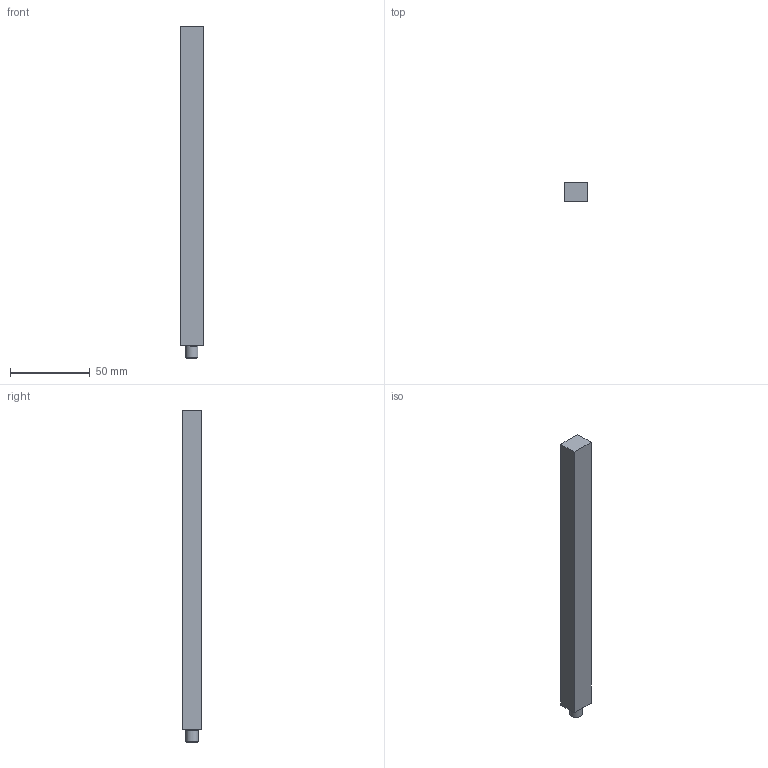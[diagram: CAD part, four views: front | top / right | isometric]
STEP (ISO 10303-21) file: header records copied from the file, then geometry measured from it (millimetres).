
FILE_DESCRIPTION (( 'STEP AP214' ), '1' );
FILE_NAME ('KKPHF Pin S_-_8-200.step', '2024-02-07T08:54:06', ( '' ), ( '' ), 'SwSTEP 2.0', 'SolidWorks 2020', '' );
FILE_SCHEMA (( 'AUTOMOTIVE_DESIGN' ));
Length unit declared in the file: millimetre
Products named in the file (1): KKPHF  Pin S_-_8-200
Bounding box: 15 x 12 x 207.9 mm (x, y, z)
Volume: 36295.4 mm3; surface area: 11451.5 mm2
Topology: 1 solids, 1 shells, 15 faces, 31 edges, 19 vertices
Faces by surface type: plane 9, cylinder 3, cone 2, torus 1
Full cylindrical faces by diameter (mm): 3.3 x1
Entity records: 425 total; most frequent: CARTESIAN_POINT 78, DIRECTION 62, ORIENTED_EDGE 56, EDGE_CURVE 28, AXIS2_PLACEMENT_3D 22, VECTOR 18, VERTEX_POINT 18, EDGE_LOOP 18
